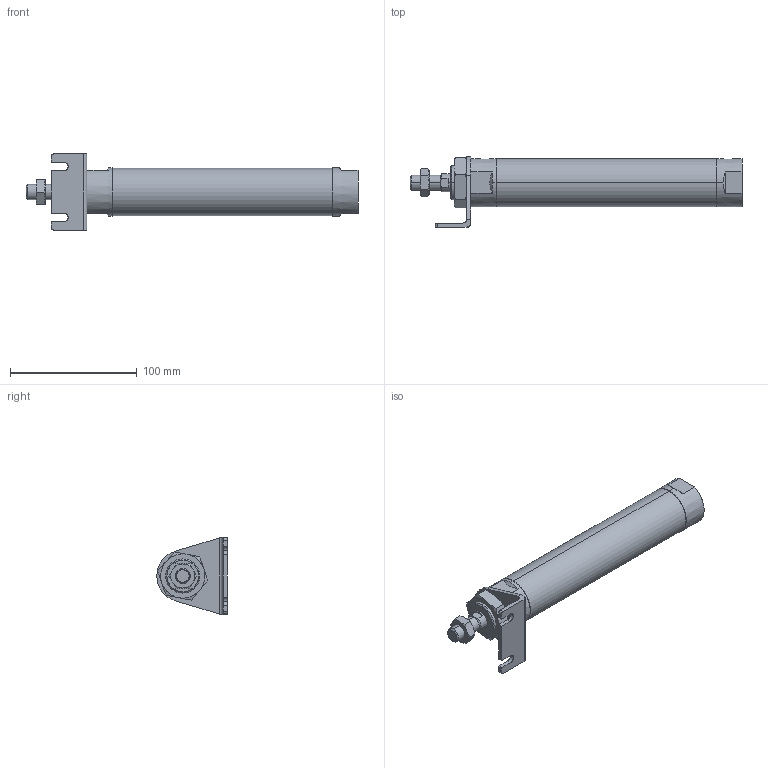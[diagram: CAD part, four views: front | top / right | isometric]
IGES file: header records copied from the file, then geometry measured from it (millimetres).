
Start section: SolidWorks IGES file using analytic representation for surfaces
Global section: file name: C:\Users\Toshiba\Desktop\JGND2-32-125-L.IGS; native system: SolidWorks 2014; preprocessor: SolidWorks 2014; author: Toshiba; date: 160804.105320; units: millimetre
Bounding box: 262 x 55.5 x 60 mm (x, y, z)
Surface area: 43075.6 mm2 (no closed solid volume)
Topology: 0 solids, 0 shells, 116 faces, 1918 edges, 1914 vertices
Faces by surface type: bspline 71, revolution 45
